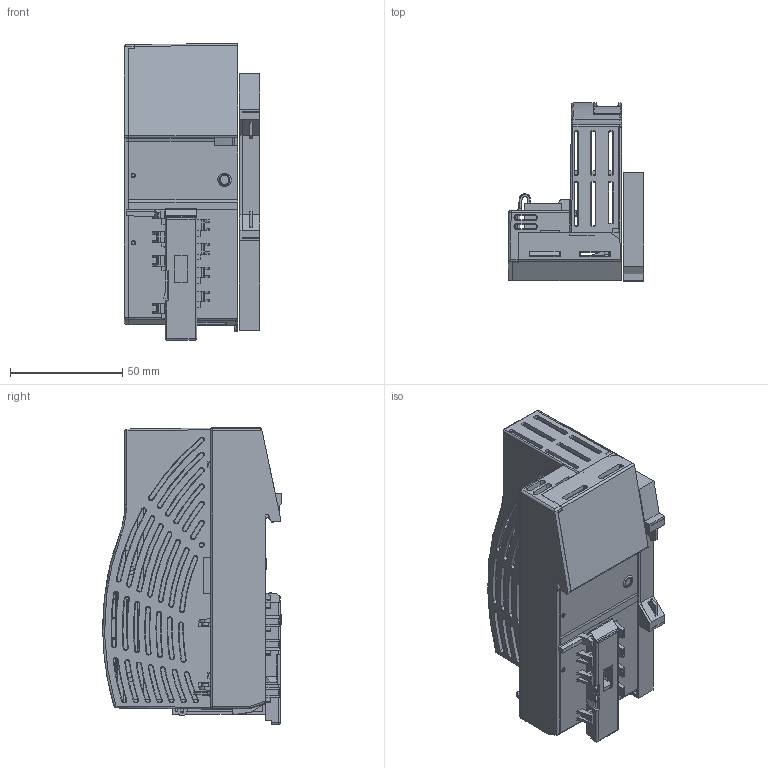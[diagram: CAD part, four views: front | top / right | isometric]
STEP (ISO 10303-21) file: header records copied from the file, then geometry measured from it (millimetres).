
FILE_DESCRIPTION((''),'2;1');
FILE_NAME('2036327_ASM','2024-03-20T12:40:29',('t.hampe'),(''),'CREO PARAMETRIC BY PTC INC, 2019292','CREO PARAMETRIC BY PTC INC, 2019292','');
FILE_SCHEMA(('AUTOMOTIVE_DESIGN { 1 0 10303 214 1 1 1 1 }'));
Products named in the file (3): 2036326; 2036269; 2036327_ASM
Assembly tree (2 placements, depth 2):
  2036327_ASM
    2036326
    2036269
Bounding box: 60.58 x 79.52 x 132.28 mm (x, y, z)
Volume: 81121 mm3; surface area: 100846.3 mm2
Topology: 11 solids, 11 shells, 2602 faces, 7530 edges, 4930 vertices
Faces by surface type: plane 1532, cylinder 700, cone 206, torus 114, bspline 27, sphere 14, extrusion 9
Entity records: 129652 total; most frequent: CARTESIAN_POINT 20269, ORIENTED_EDGE 15024, DIRECTION 13526, PRESENTATION_STYLE_ASSIGNMENT 10071, STYLED_ITEM 7537, CURVE_STYLE 7526, EDGE_CURVE 7512, VECTOR 5244
